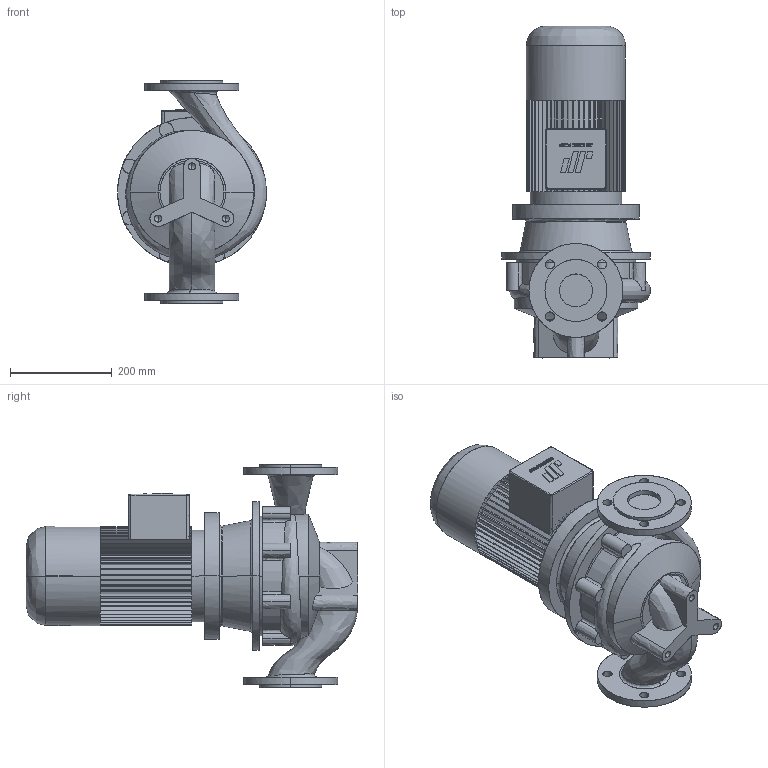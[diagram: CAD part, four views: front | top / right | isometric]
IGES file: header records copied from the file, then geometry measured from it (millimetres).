
Start section: CombiLine
Global section: file name: CLB_65-200_IEC100L_ND10.igs; native system:  By UGS Corp.; preprocessor: XPlus GENERIC/IGES 3.0; author: Stageplaats; organization: Johnson Pump Water B.V.; date: 20070716.131529; units: millimetre
Bounding box: 293.17 x 653.5 x 440 mm (x, y, z)
Surface area: 980037 mm2 (no closed solid volume)
Topology: 0 solids, 0 shells, 671 faces, 3854 edges, 3848 vertices
Faces by surface type: bspline 671
